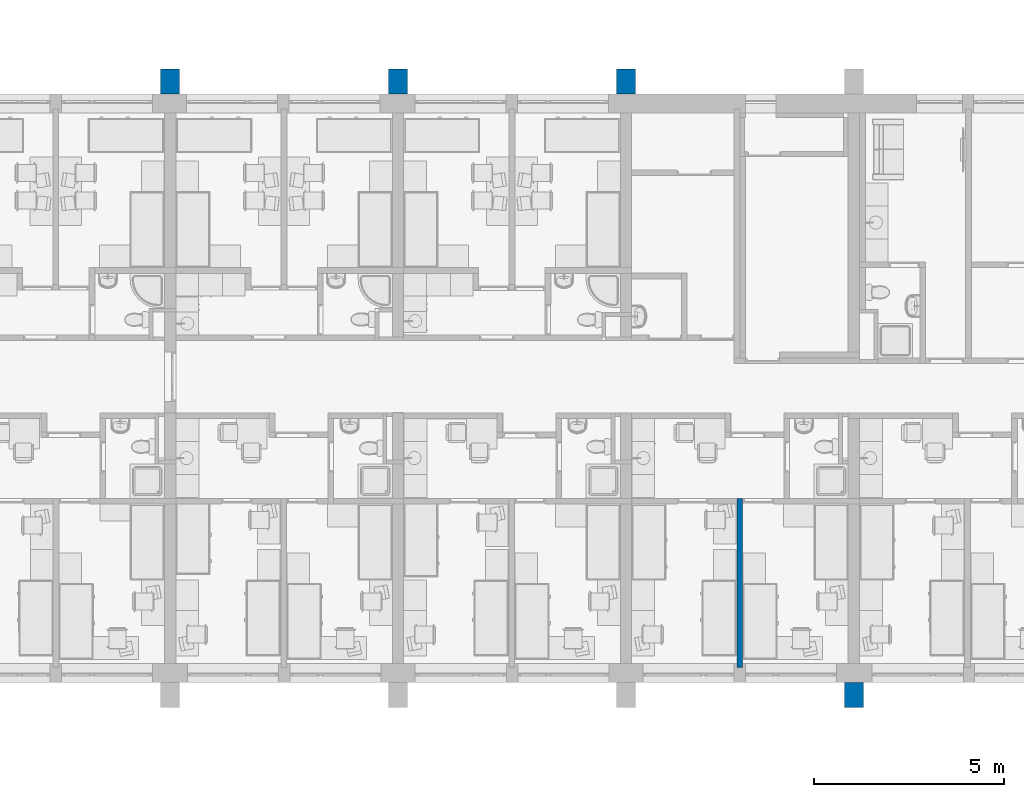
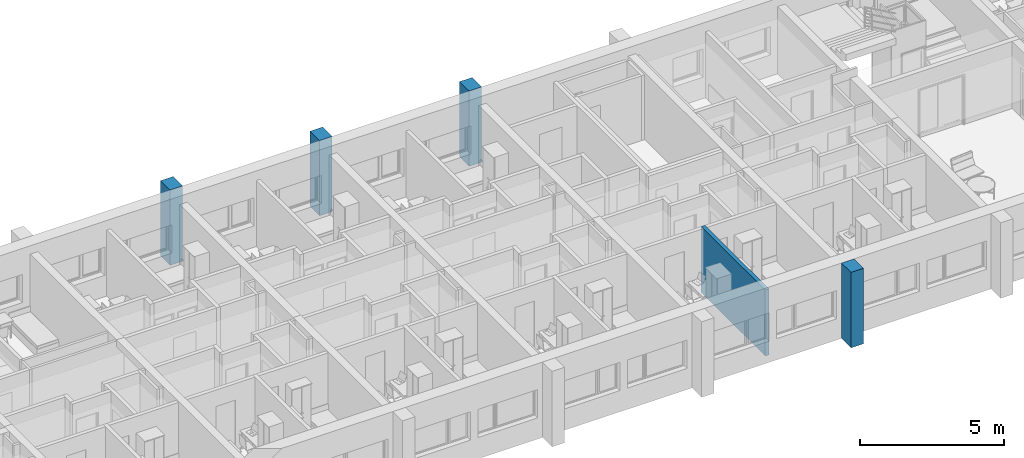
# One storey, part 9 of 165: 5 walls.
"""IFC2X3 building model written with IfcOpenShell, lengths in millimetres."""

from ifc_helpers import new_model, entity, si_unit, converted_unit, money_unit, direction, frame, origin_with_axes, place, context, subcontext, project, spatial, polyline, outline, extrude, material, layer, layer_set, layer_usage, type_object, element, save


model = new_model("IFC2X3")

# Units and contexts
model_context = context("Model", 3, precision=1e-05, world=origin_with_axes(), true_north=direction((0.0, 1.0)))
body_context = subcontext(model_context, "Body", "Model", "MODEL_VIEW")
ifc_project = project(units=[si_unit("LENGTHUNIT", "METRE", prefix="MILLI"), si_unit("AREAUNIT", "SQUARE_METRE"), si_unit("VOLUMEUNIT", "CUBIC_METRE"), converted_unit("PLANEANGLEUNIT", "DEGREE", entity("IfcPlaneAngleMeasure", 0.0174532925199), si_unit("PLANEANGLEUNIT", "RADIAN"), dimensions=[0, 0, 0, 0, 0, 0, 0]), si_unit("SOLIDANGLEUNIT", "STERADIAN"), money_unit("USD"), converted_unit("TIMEUNIT", "Year", entity("IfcTimeMeasure", 31556926.0), si_unit("TIMEUNIT", "SECOND"), dimensions=[0, 0, 0, 0, 0, 0, 0]), si_unit("MASSUNIT", "GRAM"), si_unit("THERMODYNAMICTEMPERATUREUNIT", "DEGREE_CELSIUS"), si_unit("LUMINOUSINTENSITYUNIT", "LUMEN")], contexts=[model_context])

# Site, building, storey
site_placement = place(None, origin_with_axes())
site = spatial("IfcSite", under=ifc_project, at=site_placement, Name="Site", CompositionType="ELEMENT")
building_placement = place(site_placement, origin_with_axes())
building = spatial("IfcBuilding", under=site, at=building_placement, Name="Building", CompositionType="ELEMENT")
storey_placement = place(building_placement, frame((0.0, 0.0, 6300.0), z_axis=(0.0, 0.0, 1.0), x_axis=(1.0, 0.0, 0.0)))
storey = spatial("IfcBuildingStorey", under=building, at=storey_placement, Name="4KORRUS", CompositionType="ELEMENT", Elevation=6300.0)

# Walls
ifc_material_1 = material(Name="Olemasolevad seinad tellis, uus viimistlus")
ifc_layer_1 = layer(ifc_material_1, 500.0, ventilated="UNKNOWN")
ifc_layer_set_1 = layer_set([ifc_layer_1], Name="Olemasolevad seinad tellis, uus viimistlus 500")
ifc_layer_usage_1 = layer_usage(ifc_layer_set_1, "AXIS2", "POSITIVE", -100.0)
wall_type_1 = type_object("IfcWallType", Name="Olemasolevad seinad tellis, uus viimistlus 500", PredefinedType="NOTDEFINED")
wall_1_placement = place(storey_placement, frame((-17990.2967033, -20796.6419407, 0.0), z_axis=(0.0, 0.0, 1.0), x_axis=(0.0, 1.0, 0.0)))
element("IfcWallStandardCase", 1, at=wall_1_placement, inside=storey, type_object=wall_type_1, material=ifc_layer_usage_1, Name="VS1", ObjectType="VS1", context=body_context, shape_type="SweptSolid", body=[
    extrude(outline(polyline([(0.0, -100.0), (657.402041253, -100.0), (657.402041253, 400.0), (0.0, 400.0), (0.0, -100.0)])), origin_with_axes(), (0.0, 0.0, 1.0), 3200.0),
])
ifc_layer_usage_2 = layer_usage(ifc_layer_set_1, "AXIS2", "POSITIVE", -100.0)
wall_2_placement = place(storey_placement, frame((-35990.2967033, -4639.6041088, 0.0), z_axis=(0.0, 0.0, 1.0), x_axis=(0.0, 1.0, 0.0)))
element("IfcWallStandardCase", 2, at=wall_2_placement, inside=storey, type_object=wall_type_1, material=ifc_layer_usage_2, Name="VS1", ObjectType="VS1", context=body_context, shape_type="SweptSolid", body=[
    extrude(outline(polyline([(0.0, -100.0), (657.402041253, -100.0), (657.402041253, 400.0), (0.0, 400.0), (0.0, -100.0)])), origin_with_axes(), (0.0, 0.0, 1.0), 3200.0),
])
ifc_layer_usage_3 = layer_usage(ifc_layer_set_1, "AXIS2", "POSITIVE", -100.0)
wall_3_placement = place(storey_placement, frame((-29990.2967033, -4639.6041088, 0.0), z_axis=(0.0, 0.0, 1.0), x_axis=(0.0, 1.0, 0.0)))
element("IfcWallStandardCase", 3, at=wall_3_placement, inside=storey, type_object=wall_type_1, material=ifc_layer_usage_3, Name="VS1", ObjectType="VS1", context=body_context, shape_type="SweptSolid", body=[
    extrude(outline(polyline([(0.0, -100.0), (657.402041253, -100.0), (657.402041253, 400.0), (0.0, 400.0), (0.0, -100.0)])), origin_with_axes(), (0.0, 0.0, 1.0), 3200.0),
])
ifc_layer_usage_4 = layer_usage(ifc_layer_set_1, "AXIS2", "POSITIVE", -100.0)
wall_4_placement = place(storey_placement, frame((-23990.2967033, -4639.6041088, 0.0), z_axis=(0.0, 0.0, 1.0), x_axis=(0.0, 1.0, 0.0)))
element("IfcWallStandardCase", 4, at=wall_4_placement, inside=storey, type_object=wall_type_1, material=ifc_layer_usage_4, Name="VS1", ObjectType="VS1", context=body_context, shape_type="SweptSolid", body=[
    extrude(outline(polyline([(0.0, -100.0), (657.402041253, -100.0), (657.402041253, 400.0), (0.0, 400.0), (0.0, -100.0)])), origin_with_axes(), (0.0, 0.0, 1.0), 3200.0),
])
ifc_material_2 = material(Name="UmbKipsplaat")
ifc_layer_2 = layer(ifc_material_2, 13.0, ventilated="UNKNOWN")
ifc_layer_3 = layer(ifc_material_2, 13.0, ventilated="UNKNOWN")
ifc_material_3 = material(Name="SOOJUSTUS MINERAALVILL")
ifc_layer_4 = layer(ifc_material_3, 98.0, ventilated="UNKNOWN")
ifc_layer_5 = layer(ifc_material_2, 13.0, ventilated="UNKNOWN")
ifc_layer_6 = layer(ifc_material_2, 13.0, ventilated="UNKNOWN")
ifc_layer_set_2 = layer_set([ifc_layer_2, ifc_layer_3, ifc_layer_4, ifc_layer_5, ifc_layer_6], Name="kipssein150")
ifc_layer_usage_5 = layer_usage(ifc_layer_set_2, "AXIS2", "POSITIVE", 0.0)
wall_type_2 = type_object("IfcWallType", Name="kipssein150 150", PredefinedType="NOTDEFINED")
wall_5_placement = place(storey_placement, frame((-21070.2967033, -19739.2398994, 0.0), z_axis=(0.0, 0.0, 1.0), x_axis=(0.0, 1.0, 0.0)))
element("IfcWallStandardCase", 5, at=wall_5_placement, inside=storey, type_object=wall_type_2, material=ifc_layer_usage_5, Name="SS1", ObjectType="SS1", context=body_context, shape_type="SweptSolid", body=[
    extrude(outline(polyline([(0.0, 0.0), (4450.0, 0.0), (4450.0, 150.0), (0.0, 150.0), (0.0, 0.0)])), origin_with_axes(), (0.0, 0.0, 1.0), 2800.0),
])

save(model, "model.ifc")
